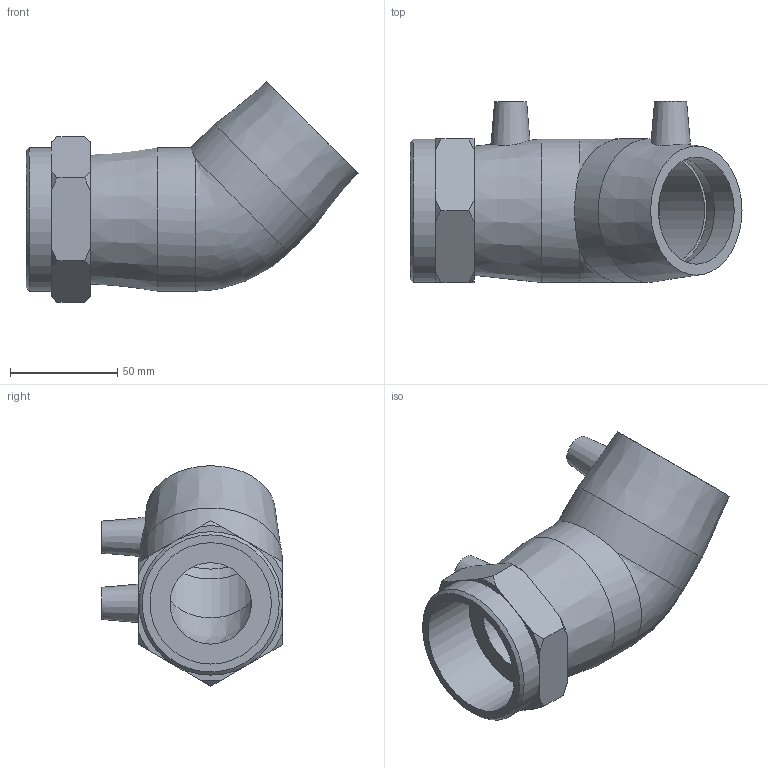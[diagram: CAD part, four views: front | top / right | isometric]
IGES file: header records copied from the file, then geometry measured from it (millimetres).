
Global section: file name: 493604050020.ipt; native system: Autodesk Inventor 2015; preprocessor: unknown; author: KIM; date: 20200202.122501; units: millimetre
Bounding box: 155 x 84.5 x 102.95 mm (x, y, z)
Volume: 265429 mm3; surface area: 65758.2 mm2
Topology: 1 solids, 2 shells, 61 faces, 150 edges, 100 vertices
Faces by surface type: plane 27, cone 17, revolution 9, cylinder 7, bspline 1
Full cylindrical faces by diameter (mm): 4 x2, 50 x2, 67 x3
